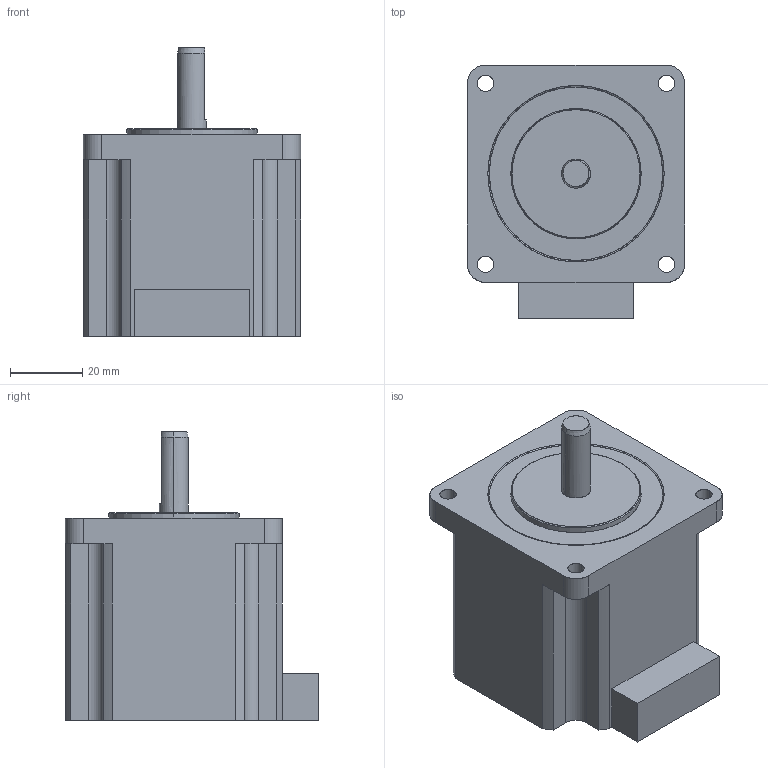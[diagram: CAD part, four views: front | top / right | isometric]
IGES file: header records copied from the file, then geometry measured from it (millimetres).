
Start section: SolidWorks IGES file using analytic representation for surfaces
Global section: file name: C:\Users\7666\Desktop\PMSA-U60D3_3D\PMSA-U60D3_3D.IGS; native system: SolidWorks 2014; preprocessor: SolidWorks 2014; author: 7666; date: 170131.164207; units: millimetre
Bounding box: 60 x 70 x 79.8 mm (x, y, z)
Surface area: 21633.2 mm2 (no closed solid volume)
Topology: 0 solids, 0 shells, 64 faces, 1020 edges, 1020 vertices
Faces by surface type: revolution 35, bspline 29
